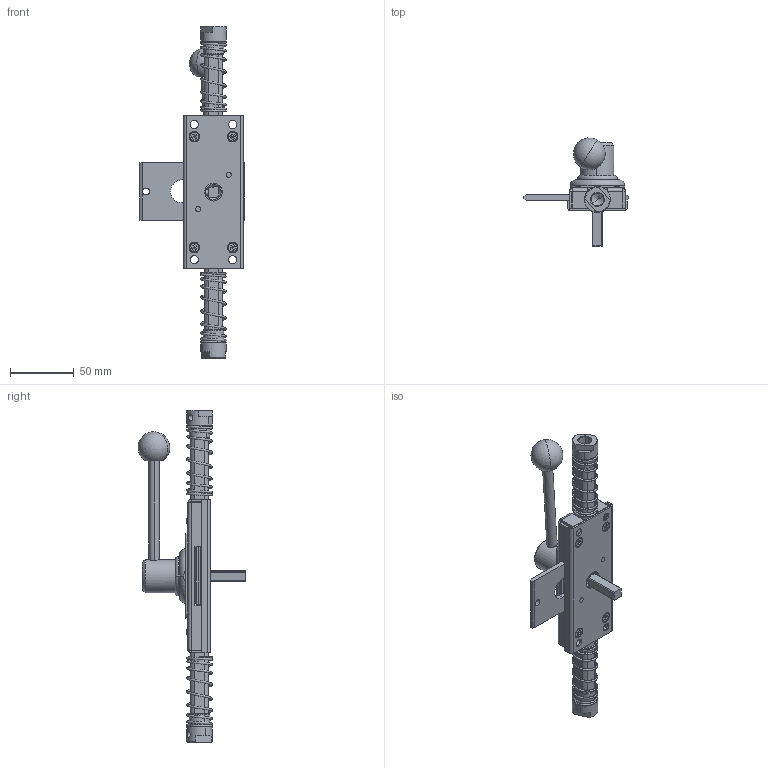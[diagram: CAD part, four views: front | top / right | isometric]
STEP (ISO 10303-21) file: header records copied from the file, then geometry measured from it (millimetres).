
FILE_DESCRIPTION (( 'STEP AP214' ), '1' );
FILE_NAME ('1B.ZWP10.P - zamek wewnetrzny panik ZWP prawy.STEP', '2016-09-07T09:57:13', ( '' ), ( '' ), 'SwSTEP 2.0', 'SolidWorks 2015', '' );
FILE_SCHEMA (( 'AUTOMOTIVE_DESIGN' ));
Length unit declared in the file: millimetre
Products named in the file (28): 1B.ZW.003_A; 1B.ZW.013_A; 1B.ZW.001_A; 1B.ZW.014_K.02; 1B.ZW.002_B; 1B.ZW.015_A; 1B.ZW.016_A; 1B.ZWP10.P - zamek wewnetrzny panik ZWP prawy; 1B.ZW.020_A; 1B.ZW.011.02_K.01; 1B.ZW.011_A; 1B.ZW.011.03_A; 1B.ZW.012_A.35; 1B.ZW.011.01_A; 1B.ZW.010_A; 1B.ZW.009_A; 1B.ZW.008_A; 1B.ZW.007_A; 1B.ZW.006_A; 1B.ZW.005_B.L; 1B.ZW.004_A; 1B.ZW.005.04_A; 5.SP.001_A; 1B.ZW.005.03_B; M4_M4 x 8; 1B.ZW.005.02_A; 1B.SAP.000.00.03_1B.SAP.000.00.03.D10; 1B.ZW.005.01_A
Assembly tree (40 placements, depth 3):
  1B.ZWP10.P - zamek wewnetrzny panik ZWP prawy
    1B.ZW.002_B
    1B.ZW.001_A
    1B.ZW.003_A  x4
    1B.ZW.005_B.L  x2
      1B.ZW.005.01_A
      1B.ZW.005.02_A
      1B.ZW.005.03_B
      1B.ZW.005.04_A
    1B.ZW.006_A
    1B.ZW.007_A
    1B.ZW.008_A
    1B.ZW.009_A
    1B.ZW.010_A
    1B.ZW.011_A
      1B.ZW.011.01_A
      1B.ZW.011.03_A
    1B.ZW.011.02_K.01
    1B.ZW.020_A
    1B.ZW.016_A
    1B.ZW.015_A
    1B.ZW.014_K.02
    1B.ZW.013_A
    1B.ZW.012_A.35
    1B.SAP.000.00.03_1B.SAP.000.00.03.D10  x2
    M4_M4 x 8  x8
    5.SP.001_A  x2
    1B.ZW.004_A
Bounding box: 82 x 84.52 x 260.35 mm (x, y, z)
Volume: 120779.9 mm3; surface area: 96428.4 mm2
Topology: 43 solids, 43 shells, 1057 faces, 2478 edges, 1522 vertices
Faces by surface type: plane 458, cylinder 323, cone 212, torus 40, bspline 22, sphere 2
Entity records: 33632 total; most frequent: CARTESIAN_POINT 16566, DIRECTION 3465, ORIENTED_EDGE 3110, EDGE_CURVE 1555, AXIS2_PLACEMENT_3D 1345, VERTEX_POINT 969, EDGE_LOOP 780, VECTOR 775
